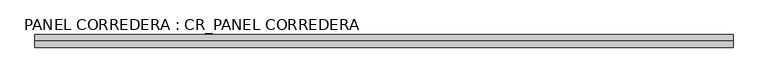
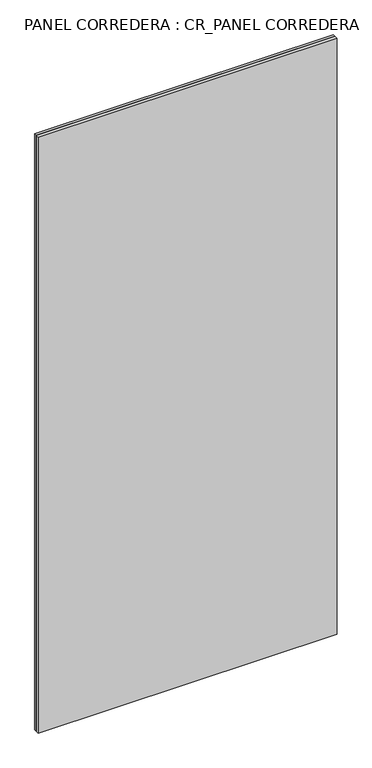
"""IFC4 building model written with IfcOpenShell, lengths in millimetres: plate geometry, PANEL CORREDERA : CR_PANEL CORREDERA."""

from ifc_helpers import new_model, si_unit, frame, origin, origin_with_axes, place, context, project, spatial, polyline, outline, extrude, source, transform, mapped, element, save


def panel_corredera_cr_panel_corredera_0b5135b5(model_context):
    return source(origin(), model_context, "Body", "SweptSolid", [
        extrude(outline(polyline([(2550.0, -530.0), (0.0, -530.0), (0.0, 680.0), (2550.0, 680.0), (2550.0, -530.0)]), holes=[polyline([(2530.0, -510.0), (2530.0, 660.0), (20.0, 660.0), (20.0, -510.0), (2530.0, -510.0)])]), frame((0.0, -30.0, 0.0), z_axis=(0.0, 1.0, 0.0), x_axis=(0.0, 0.0, 1.0)), (0.0, 0.0, 1.0), 10.0),
        extrude(outline(polyline([(680.0, -30.0), (680.0, -42.5), (-530.0, -42.5), (-530.0, -30.0), (680.0, -30.0)])), origin_with_axes(), (0.0, 0.0, 1.0), 2550.0),
    ])


if __name__ == "__main__":
    model = new_model("IFC4")
    model_context = context("Model", 3, world=origin())
    ifc_project = project(units=[si_unit("LENGTHUNIT", "METRE", prefix="MILLI")], contexts=[model_context])
    site = spatial("IfcSite", under=ifc_project)
    building = spatial("IfcBuilding", under=site)
    placement = place(None, origin())
    panel_corredera_cr_panel_corredera_shape = panel_corredera_cr_panel_corredera_0b5135b5(model_context)
    element("IfcPlate", 1, ObjectType="PANEL CORREDERA : CR_PANEL CORREDERA", at=placement, inside=building, context=model_context, shape_type="MappedRepresentation", body=[
        mapped(panel_corredera_cr_panel_corredera_shape, transform((0.0, 0.0, 0.0), x_axis=(1.0, 0.0, 0.0), y_axis=(0.0, 1.0, 0.0), z_axis=(0.0, 0.0, 1.0))),
    ])
    save(model, "model.ifc")
